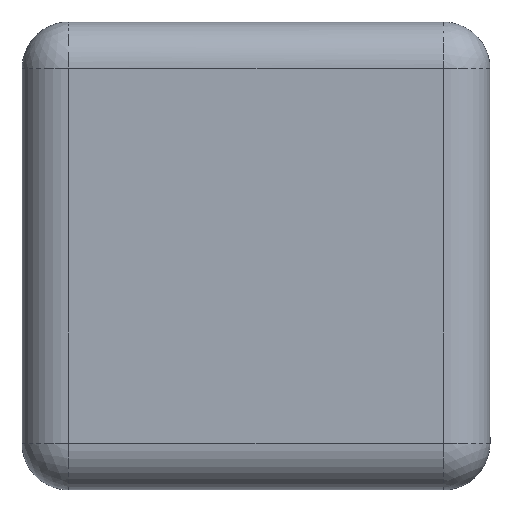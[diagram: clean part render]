
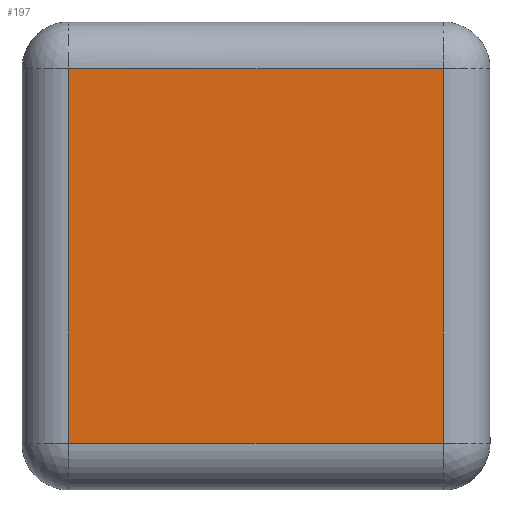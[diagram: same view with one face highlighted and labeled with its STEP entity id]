
A CAD part, top view. The second image highlights one B-rep face of the part: STEP entity #197.
In plain terms, the highlighted planar face has unit normal (0, 0, 1).
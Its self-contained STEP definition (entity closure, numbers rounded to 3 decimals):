
#1 = EDGE_CURVE ( 'NONE', #288, #139, #256, .T. ) ;
#16 = VECTOR ( 'NONE', #231, 1000. ) ;
#25 = AXIS2_PLACEMENT_3D ( 'NONE', #136, #193, #86 ) ;
#60 = ORIENTED_EDGE ( 'NONE', *, *, #1, .F. ) ;
#83 = CARTESIAN_POINT ( 'NONE',  ( 36., 4., 4. ) ) ;
#86 = DIRECTION ( 'NONE',  ( 1., 0., 0. ) ) ;
#99 = VECTOR ( 'NONE', #156, 1000. ) ;
#102 = CARTESIAN_POINT ( 'NONE',  ( 4., 4., 4. ) ) ;
#107 = CARTESIAN_POINT ( 'NONE',  ( 4., 20., 4. ) ) ;
#109 = ORIENTED_EDGE ( 'NONE', *, *, #196, .F. ) ;
#115 = DIRECTION ( 'NONE',  ( -1., 0., 0. ) ) ;
#116 = FACE_OUTER_BOUND ( 'NONE', #274, .T. ) ;
#131 = VECTOR ( 'NONE', #304, 1000. ) ;
#136 = CARTESIAN_POINT ( 'NONE',  ( 4., 4., 4. ) ) ;
#139 = VERTEX_POINT ( 'NONE', #83 ) ;
#156 = DIRECTION ( 'NONE',  ( 0., -1., 0. ) ) ;
#163 = CARTESIAN_POINT ( 'NONE',  ( 20., 4., 4. ) ) ;
#176 = VERTEX_POINT ( 'NONE', #329 ) ;
#193 = DIRECTION ( 'NONE',  ( 0., 0., 1. ) ) ;
#194 = EDGE_CURVE ( 'NONE', #139, #229, #317, .T. ) ;
#196 = EDGE_CURVE ( 'NONE', #176, #288, #281, .T. ) ;
#197 = ADVANCED_FACE ( 'NONE', ( #116 ), #269, .T. ) ;
#216 = CARTESIAN_POINT ( 'NONE',  ( 36., 20., 4. ) ) ;
#223 = VECTOR ( 'NONE', #115, 1000. ) ;
#229 = VERTEX_POINT ( 'NONE', #102 ) ;
#231 = DIRECTION ( 'NONE',  ( 1., 0., 0. ) ) ;
#236 = ORIENTED_EDGE ( 'NONE', *, *, #239, .F. ) ;
#239 = EDGE_CURVE ( 'NONE', #229, #176, #278, .T. ) ;
#256 = LINE ( 'NONE', #216, #99 ) ;
#269 = PLANE ( 'NONE',  #25 ) ;
#274 = EDGE_LOOP ( 'NONE', ( #109, #236, #319, #60 ) ) ;
#278 = LINE ( 'NONE', #107, #131 ) ;
#281 = LINE ( 'NONE', #323, #16 ) ;
#288 = VERTEX_POINT ( 'NONE', #289 ) ;
#289 = CARTESIAN_POINT ( 'NONE',  ( 36., 36., 4. ) ) ;
#304 = DIRECTION ( 'NONE',  ( 0., 1., 0. ) ) ;
#317 = LINE ( 'NONE', #163, #223 ) ;
#319 = ORIENTED_EDGE ( 'NONE', *, *, #194, .F. ) ;
#323 = CARTESIAN_POINT ( 'NONE',  ( 19.996, 36., 4. ) ) ;
#329 = CARTESIAN_POINT ( 'NONE',  ( 4., 36., 4. ) ) ;
